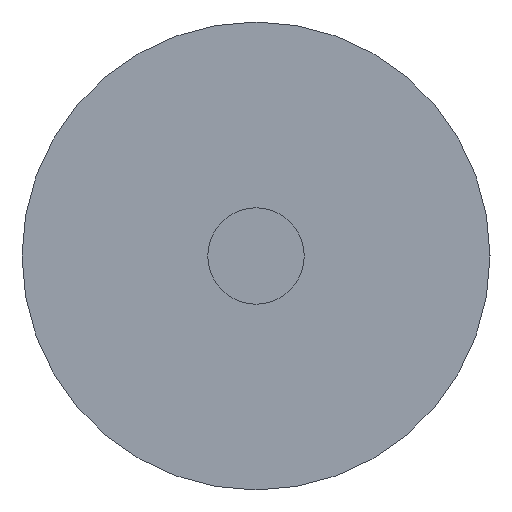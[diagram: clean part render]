
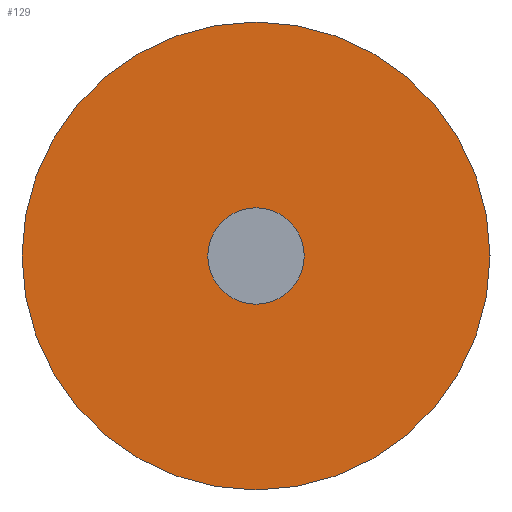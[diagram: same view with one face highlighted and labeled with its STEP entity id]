
A CAD part, front view. The second image highlights one B-rep face of the part: STEP entity #129.
In plain terms, the highlighted planar face has unit normal (0, -1, 0).
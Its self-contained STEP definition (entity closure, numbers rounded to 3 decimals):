
#80=PLANE('',#606);
#129=ADVANCED_FACE('',(#216,#217),#80,.F.);
#216=FACE_BOUND('',#297,.T.);
#217=FACE_BOUND('',#298,.T.);
#297=EDGE_LOOP('',(#395));
#298=EDGE_LOOP('',(#396));
#395=ORIENTED_EDGE('',*,*,#500,.F.);
#396=ORIENTED_EDGE('',*,*,#499,.T.);
#449=VERTEX_POINT('',#1058);
#450=VERTEX_POINT('',#1061);
#499=EDGE_CURVE('',#449,#449,#536,.T.);
#500=EDGE_CURVE('',#450,#450,#537,.T.);
#536=CIRCLE('',#603,4.);
#537=CIRCLE('',#605,19.4);
#603=AXIS2_PLACEMENT_3D('',#1057,#739,#740);
#605=AXIS2_PLACEMENT_3D('',#1060,#743,#744);
#606=AXIS2_PLACEMENT_3D('',#1062,#745,#746);
#739=DIRECTION('',(0.,1.,0.));
#740=DIRECTION('',(-1.,0.,0.));
#743=DIRECTION('',(0.,1.,0.));
#744=DIRECTION('',(-1.,0.,0.));
#745=DIRECTION('',(0.,1.,0.));
#746=DIRECTION('',(1.,0.,0.));
#1057=CARTESIAN_POINT('',(0.,19.605,0.));
#1058=CARTESIAN_POINT('',(-4.,19.605,0.));
#1060=CARTESIAN_POINT('',(0.,19.605,0.));
#1061=CARTESIAN_POINT('',(-19.4,19.605,0.));
#1062=CARTESIAN_POINT('',(4.,19.605,0.));
